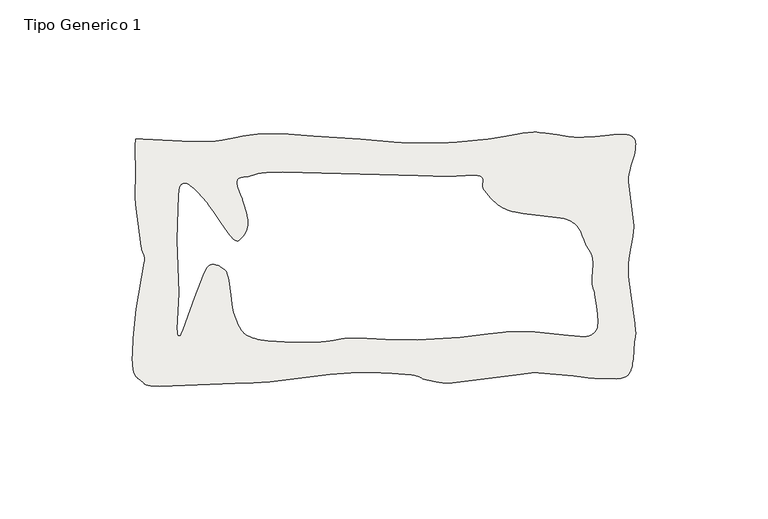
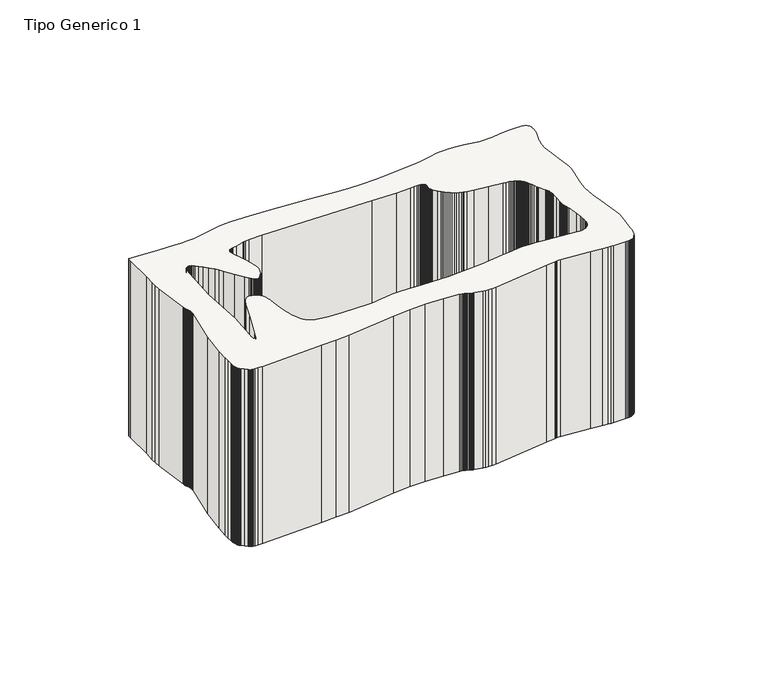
"""IFC4 building model written with IfcOpenShell, lengths in millimetres: slab geometry, Tipo Generico 1."""

import ifcopenshell
import ifcopenshell.guid

model = None  # the IFC model being written
_history = None  # IfcOwnerHistory: only IFC2X3 demands one
_inside = {}  # id of a spatial element -> (the spatial element, [elements in it])
_under = {}  # id of a project, library or spatial element -> (it, [spatial elements below it])
_declared = {}  # id of a project -> (the project, [libraries it declares])
_typed = {}  # id of a type object -> (the type object, [elements of that type])
_made_of = {}  # id of a material, layer set ... -> (it, [elements and type objects made of it])


def new_model(schema):
    """Start an empty IFC model of exactly this schema.

    Asked for "IFC4X3", IfcOpenShell would pick the latest addendum, in which some entities
    have other attributes; the version numbers below select the first issue.
    IFC2X3 requires an IfcOwnerHistory on every rooted entity: one is made here for all.
    """
    global model, _history
    if schema == "IFC4X3":
        model = ifcopenshell.file(schema_version=(4, 3, 0, 0))
    else:
        model = ifcopenshell.file(schema=schema)
    _inside.clear()
    _under.clear()
    _declared.clear()
    _typed.clear()
    _made_of.clear()
    _history = None
    if model.schema == "IFC2X3":
        org = make("IfcOrganization", Name="unknown")
        user = make(
            "IfcPersonAndOrganization",
            ThePerson=make("IfcPerson", FamilyName="unknown"),
            TheOrganization=org,
        )
        app = make(
            "IfcApplication",
            ApplicationDeveloper=org,
            Version="unknown",
            ApplicationFullName="unknown",
            ApplicationIdentifier="unknown",
        )
        _history = make(
            "IfcOwnerHistory",
            OwningUser=user,
            OwningApplication=app,
            ChangeAction="ADDED",
            CreationDate=0,
        )
    return model


def make(cls, **values):
    """One entity of the class cls with the attributes given. An attribute that is None is left unset."""
    return model.create_entity(
        cls, **{name: value for name, value in values.items() if value is not None}
    )


def rooted(cls, **values):
    """An entity with a GlobalId (a new one), such as an element, a storey or a relation."""
    return make(cls, GlobalId=ifcopenshell.guid.new(), OwnerHistory=_history, **values)


def si_unit(unit_type, name, prefix=None):
    """IfcSIUnit, for example si_unit("LENGTHUNIT", "METRE", prefix="MILLI")."""
    return make("IfcSIUnit", UnitType=unit_type, Prefix=prefix, Name=name)


def assignment(units):
    """IfcUnitAssignment: the units of a project."""
    return None if units is None else make("IfcUnitAssignment", Units=units)


def point(xyz):
    """IfcCartesianPoint."""
    return None if xyz is None else make("IfcCartesianPoint", Coordinates=xyz)


def direction(xyz):
    """IfcDirection."""
    return None if xyz is None else make("IfcDirection", DirectionRatios=xyz)


def frame(location, z_axis=None, x_axis=None):
    """IfcAxis2Placement3D, a coordinate frame: its origin and axes. An axis left out is left unset."""
    return make(
        "IfcAxis2Placement3D",
        Location=point(location),
        Axis=direction(z_axis),
        RefDirection=direction(x_axis),
    )


def origin():
    """The frame at (0, 0, 0) with its axes left unset."""
    return frame((0.0, 0.0, 0.0))


def place(relative_to, where):
    """IfcLocalPlacement: puts the frame where relative to a parent placement (None: the world)."""
    return make(
        "IfcLocalPlacement", PlacementRelTo=relative_to, RelativePlacement=where
    )


def context(
    kind, dimensions, precision=None, world=None, true_north=None, identifier=None
):
    """IfcGeometricRepresentationContext, for example the 3D "Model" context."""
    return make(
        "IfcGeometricRepresentationContext",
        ContextIdentifier=identifier,
        ContextType=kind,
        CoordinateSpaceDimension=dimensions,
        Precision=precision,
        WorldCoordinateSystem=world,
        TrueNorth=true_north,
    )


def project(units=None, contexts=None):
    """IfcProject with its units and contexts."""
    return rooted(
        "IfcProject",
        Name="project",
        RepresentationContexts=contexts,
        UnitsInContext=assignment(units),
    )


def spatial(cls, under=None, at=None, **own):
    """A site, building, storey or space (cls), placed at a placement, below another one or the project."""
    s = rooted(cls, ObjectPlacement=at, **own)
    if under is not None:
        _under.setdefault(under.id(), (under, []))[1].append(s)
    return s


def polyline(points):
    """IfcPolyline through the points."""
    return make("IfcPolyline", Points=[point(p) for p in points])


def outline(outer, holes=None, kind="AREA"):
    """IfcArbitraryClosedProfileDef: a profile drawn as a closed curve; with holes, ...WithVoids."""
    if holes is None:
        return make("IfcArbitraryClosedProfileDef", ProfileType=kind, OuterCurve=outer)
    return make(
        "IfcArbitraryProfileDefWithVoids",
        ProfileType=kind,
        OuterCurve=outer,
        InnerCurves=holes,
    )


def extrude(swept, where, along, depth):
    """IfcExtrudedAreaSolid: the profile swept, set in the frame where, extruded along a direction by depth."""
    return make(
        "IfcExtrudedAreaSolid",
        SweptArea=swept,
        Position=where,
        ExtrudedDirection=direction(along),
        Depth=depth,
    )


def shape(context_of_items, identifier, shape_type, items):
    """IfcShapeRepresentation: the items that make up one representation, for example the "Body"."""
    return make(
        "IfcShapeRepresentation",
        ContextOfItems=context_of_items,
        RepresentationIdentifier=identifier,
        RepresentationType=shape_type,
        Items=items,
    )


def source(mapping_origin, context_of_items, identifier, shape_type, items):
    """IfcRepresentationMap: a shape defined once, which mapped items show again and again."""
    return make(
        "IfcRepresentationMap",
        MappingOrigin=mapping_origin,
        MappedRepresentation=shape(context_of_items, identifier, shape_type, items),
    )


def transform(
    local_origin,
    x_axis=None,
    y_axis=None,
    z_axis=None,
    scale=None,
    scale2=None,
    scale3=None,
    uniform=True,
):
    """IfcCartesianTransformationOperator3D, or its non-uniform kind. x_axis, y_axis, z_axis: its Axis1, 2, 3."""
    if uniform:
        return make(
            "IfcCartesianTransformationOperator3D",
            Axis1=direction(x_axis),
            Axis2=direction(y_axis),
            LocalOrigin=point(local_origin),
            Scale=scale,
            Axis3=direction(z_axis),
        )
    return make(
        "IfcCartesianTransformationOperator3DnonUniform",
        Axis1=direction(x_axis),
        Axis2=direction(y_axis),
        LocalOrigin=point(local_origin),
        Scale=scale,
        Axis3=direction(z_axis),
        Scale2=scale2,
        Scale3=scale3,
    )


def mapped(mapping_source, mapping_target):
    """IfcMappedItem: shows the shape of a source again, moved by a transform."""
    return make(
        "IfcMappedItem", MappingSource=mapping_source, MappingTarget=mapping_target
    )


def made_of(thing, what):
    """Note that an element or type object is made of a material, layer set ...; save() writes the relation."""
    if what is not None:
        _made_of.setdefault(what.id(), (what, []))[1].append(thing)
    return thing


def element(
    cls,
    number,
    at=None,
    inside=None,
    cuts=None,
    type_object=None,
    material=None,
    context=None,
    identifier="Body",
    shape_type=None,
    held_by="IfcProductDefinitionShape",
    body=None,
    shapes=None,
    **own,
):
    """One element of the class cls, such as IfcWall. Its Tag is "e" and its number.

    at: its placement. inside: the storey or other place that contains it. cuts: it is an
    opening in that element (IfcRelVoidsElement). A single representation is given by context,
    identifier, shape_type and body (its items); several are given by shapes. held_by: the class
    of the entity that holds the representations. save() writes the other relations.
    """
    e = rooted(cls, Tag="e%d" % number, ObjectPlacement=at, **own)
    if body is not None:
        shapes = [shape(context, identifier, shape_type, body)]
    if shapes is not None:
        e.Representation = make(held_by, Representations=shapes)
    if inside is not None:
        _inside.setdefault(inside.id(), (inside, []))[1].append(e)
    if cuts is not None:
        rooted(
            "IfcRelVoidsElement", RelatingBuildingElement=cuts, RelatedOpeningElement=e
        )
    if type_object is not None:
        _typed.setdefault(type_object.id(), (type_object, []))[1].append(e)
    return made_of(e, material)


def aggregate(whole, parts):
    """IfcRelAggregates: a whole, such as a stair, and the parts it consists of."""
    return rooted("IfcRelAggregates", RelatingObject=whole, RelatedObjects=parts)


def save(model, path):
    """Write the relations noted so far, then the file.

    IfcRelAggregates (storeys below a building ...), IfcRelContainedInSpatialStructure (elements
    in a storey), IfcRelDefinesByType, IfcRelAssociatesMaterial and IfcRelDeclares: one each for
    every whole, place, type object, material and project.
    """
    for whole, parts in _under.values():
        aggregate(whole, parts)
    for where, things in _inside.values():
        rooted(
            "IfcRelContainedInSpatialStructure",
            RelatedElements=things,
            RelatingStructure=where,
        )
    for kind, things in _typed.values():
        rooted("IfcRelDefinesByType", RelatedObjects=things, RelatingType=kind)
    for what, things in _made_of.values():
        rooted("IfcRelAssociatesMaterial", RelatedObjects=things, RelatingMaterial=what)
    for by, libraries in _declared.values():
        rooted("IfcRelDeclares", RelatingContext=by, RelatedDefinitions=libraries)
    model.write(path)


def tipo_generico_1_56dbb633(model_context):
    return source(origin(), model_context, "Body", "SweptSolid", [
        extrude(outline(polyline([(-2359.4134925, -481.3178551), (-2359.4699487, -479.3888008), (-2359.4296657, -477.0555016), (-2359.1229636, -471.5977385), (-2358.0533235, -460.4682062), (-2354.9386975, -442.9730506), (-2354.8932281, -442.2983464), (-2354.8752215, -441.7359829), (-2354.8825469, -441.2702851), (-2354.8947532, -441.0688305), (-2354.9121487, -440.8856881), (-2354.9350362, -440.7189084), (-2354.9621962, -440.5665506), (-2354.9939342, -440.426665), (-2355.0299476, -440.2973078), (-2355.0696194, -440.1765351), (-2355.1126499, -440.0623608), (-2355.2081696, -439.8460289), (-2355.4266745, -439.4069959), (-2355.544779, -439.1530152), (-2355.6653224, -438.8552769), (-2355.7861714, -438.4981822), (-2355.9045786, -438.0660927), (-2356.0177994, -437.5434407), (-2356.1236976, -436.9145878), (-2358.1818007, -420.9839928), (-2358.3371352, -418.1014165), (-2358.3362213, -415.7112792), (-2358.2452796, -410.8342653), (-2358.34263, -398.0696029), (-2358.2867821, -396.8734661), (-2358.2703034, -396.7272482), (-2358.2614528, -396.6720115), (-2358.2516883, -396.6274928), (-2358.2043855, -396.2794014), (-2358.1576937, -396.2675771), (-2358.135109, -396.2658228), (-2357.7603528, -396.2625039), (-2355.5795672, -396.3111791), (-2344.3851101, -396.9476998), (-2337.265054, -397.2593987), (-2333.8495265, -397.3097149), (-2330.7309337, -397.2500897), (-2327.9465113, -397.0347509), (-2325.3702182, -396.6723538), (-2320.4535297, -395.7142934), (-2317.9193503, -395.2224655), (-2315.2057266, -394.7913663), (-2312.2153111, -394.4729532), (-2308.8519673, -394.3191438), (-2300.6753941, -394.4970602), (-2291.2591953, -395.0739953), (-2273.4111412, -396.3828945), (-2260.7551978, -397.3621278), (-2255.2286167, -397.739555), (-2249.4923782, -397.8838263), (-2243.2776274, -397.7248305), (-2236.9218845, -397.3387056), (-2225.1962673, -396.287338), (-2222.7098463, -395.9838786), (-2220.4047031, -395.6127073), (-2216.1705396, -394.7941505), (-2212.1596146, -394.0849212), (-2210.1332495, -393.8504694), (-2208.0371496, -393.7383945), (-2206.9600312, -393.7406072), (-2205.8743678, -393.7839799), (-2203.6856455, -393.9721984), (-2199.2929473, -394.6011645), (-2194.9829486, -395.2745728), (-2192.8976827, -395.51841), (-2190.8795569, -395.6417772), (-2188.8792823, -395.630332), (-2186.861001, -395.5195898), (-2182.9126354, -395.1249595), (-2179.319497, -394.7071758), (-2177.7450955, -394.5675561), (-2177.0289991, -394.528685), (-2176.3663115, -394.515678), (-2174.1882705, -394.5608447), (-2173.3365269, -394.6254271), (-2172.9603956, -394.6716208), (-2172.6137162, -394.7283854), (-2172.2937412, -394.7966687), (-2171.9978731, -394.8774639), (-2171.7232147, -394.9717613), (-2171.5930568, -395.0242534), (-2171.4671713, -395.0805201), (-2171.3452528, -395.1406008), (-2171.2268456, -395.204688), (-2171.1116413, -395.2728186), (-2170.9994901, -395.3452216), (-2170.8899306, -395.4219339), (-2170.7825102, -395.5031507), (-2170.5730057, -395.6793892), (-2170.3789133, -395.8657741), (-2170.2911775, -395.9599612), (-2170.2092363, -396.0552121), (-2170.1330956, -396.1518777), (-2170.0625996, -396.2502212), (-2169.9975985, -396.3506217), (-2169.9380893, -396.4533537), (-2169.8837665, -396.5587907), (-2169.8344802, -396.6672042), (-2169.7902303, -396.7789367), (-2169.7507112, -396.8943305), (-2169.7159202, -397.0136545), (-2169.6855544, -397.1372905), (-2169.6597667, -397.2655018), (-2169.6381016, -397.3986335), (-2169.6069719, -397.6809597), (-2169.5911043, -397.9868242), (-2169.5895764, -398.3187792), (-2169.6010215, -398.6793428), (-2169.7552893, -400.4595846), (-2169.8334135, -400.9992133), (-2169.9509068, -401.574431), (-2170.2803435, -402.8245454), (-2171.1484158, -405.6729051), (-2171.5913789, -407.2421937), (-2171.9760524, -408.8889614), (-2172.1316924, -409.7368908), (-2172.2548304, -410.5987072), (-2172.3395162, -411.4726931), (-2172.3796464, -412.3570151), (-2170.265237, -428.9033427), (-2170.2908719, -429.9446402), (-2170.3618262, -430.978233), (-2170.6126804, -433.0306914), (-2171.3666152, -437.1362221), (-2172.1060575, -441.3557715), (-2172.3384494, -443.5507498), (-2172.3975003, -444.6769621), (-2172.409401, -445.8251877), (-2172.293894, -448.284293), (-2172.0315946, -450.9570593), (-2171.2416465, -456.5535649), (-2169.8253269, -466.0200799), (-2169.6211644, -468.537093), (-2169.5883569, -469.3162072), (-2169.5973602, -469.9233553), (-2169.6445103, -470.4692371), (-2169.7264486, -471.0646741), (-2169.9806613, -472.8469758), (-2170.5025098, -479.3574815), (-2170.7452773, -481.1212445), (-2170.9068677, -481.9575788), (-2171.1009601, -482.7476033), (-2171.2114335, -483.1215191), (-2171.3316742, -483.4793382), (-2171.4621349, -483.8195721), (-2171.6034324, -484.1407299), (-2171.7560195, -484.4413287), (-2171.9205101, -484.7198409), (-2172.007332, -484.850378), (-2172.097207, -484.9748147), (-2172.1904376, -485.092956), (-2172.2868741, -485.2046885), (-2172.3869718, -485.3107734), (-2172.4908837, -485.4122462), (-2172.598307, -485.5092542), (-2172.7095415, -485.6017974), (-2172.8241346, -485.6900708), (-2172.942239, -485.7741086), (-2173.0636992, -485.8540266), (-2173.1882095, -485.9299382), (-2173.4468475, -486.070053), (-2173.7173862, -486.1952113), (-2173.9990617, -486.3062194), (-2174.2911156, -486.403799), (-2174.592934, -486.4887535), (-2174.9036029, -486.5618441), (-2175.2225113, -486.6238319), (-2175.5490506, -486.6754836), (-2176.2218111, -486.7509), (-2176.9157811, -486.7942728), (-2182.5436796, -486.7250727), (-2183.8080233, -486.7297668), (-2185.0433735, -486.6760552), (-2187.4983592, -486.4423277), (-2192.8413793, -485.8126741), (-2206.2044157, -484.5578685), (-2207.9433078, -484.509878), (-2208.4393713, -484.5214364), (-2208.8837067, -484.5630549), (-2213.0951328, -485.1255711), (-2238.7160105, -488.3292684), (-2240.7168963, -488.4050272), (-2242.3527904, -488.3799667), (-2243.6931249, -488.2744901), (-2244.8077789, -488.10893), (-2248.4025951, -487.2526848), (-2248.8476945, -487.155258), (-2249.2316068, -487.0489043), (-2249.5648576, -486.9349196), (-2249.8578283, -486.8146817), (-2250.1210415, -486.6895206), (-2250.3648758, -486.5607745), (-2250.8368324, -486.2977905), (-2251.0858531, -486.1662206), (-2251.3574613, -486.0364447), (-2251.6620271, -485.9097189), (-2252.0103844, -485.7874212), (-2252.4126062, -485.6708446), (-2252.8793735, -485.5614012), (-2253.4212121, -485.4603499), (-2254.0485003, -485.369063), (-2261.4149852, -484.7704995), (-2269.9539583, -484.5020206), (-2277.0413596, -484.6542257), (-2284.9786765, -485.2592772), (-2307.6837544, -488.0147458), (-2313.883096, -488.4448914), (-2320.7947172, -488.6595455), (-2349.1977311, -489.6910389), (-2351.1316295, -489.6020411), (-2352.5635168, -489.4718464), (-2353.122598, -489.3897157), (-2353.594399, -489.2953391), (-2353.8016144, -489.2433845), (-2353.9917371, -489.1881082), (-2354.165995, -489.1294394), (-2354.3265158, -489.0673356), (-2354.4748304, -489.0016837), (-2354.612161, -488.93241), (-2354.7406383, -488.8594722), (-2354.8611845, -488.7826835), (-2354.9759304, -488.7020779), (-2355.0860982, -488.6175054), (-2355.2997224, -488.4362333), (-2356.2948996, -487.5373), (-2357.4591456, -486.611204), (-2357.7136611, -486.3851076), (-2357.9526145, -486.1456986), (-2358.0661409, -486.0185908), (-2358.1756976, -485.8852667), (-2358.2812901, -485.744736), (-2358.382913, -485.5960762), (-2358.4802634, -485.4382631), (-2358.5733412, -485.2703376), (-2358.6624522, -485.0913545), (-2358.746988, -484.9003519), (-2358.8272484, -484.6963422), (-2358.9032363, -484.4783692), (-2359.042092, -483.9966878), (-2359.1629411, -483.4475237), (-2359.2651751, -482.8231329), (-2359.3490996, -482.1158502), (-2359.4134925, -481.3178551)]), holes=[polyline([(-2342.2513218, -422.635183), (-2342.6596466, -434.5081245), (-2341.7447298, -454.365301), (-2342.4817274, -467.9894937), (-2342.4692156, -468.8676361), (-2342.4271019, -469.5104523), (-2342.3962806, -469.7551638), (-2342.3599645, -469.9549405), (-2342.3398216, -470.0393603), (-2342.3184592, -470.1143183), (-2342.2958773, -470.1803126), (-2342.2723786, -470.2379911), (-2342.2601695, -470.2638552), (-2342.2476576, -470.287849), (-2342.2348402, -470.3100886), (-2342.2220227, -470.3305342), (-2342.2089025, -470.3493784), (-2342.1954739, -470.3666211), (-2342.1820453, -470.3823388), (-2342.1683139, -470.3966445), (-2342.1542742, -470.4095384), (-2342.1402372, -470.4211731), (-2342.1258947, -470.4315855), (-2342.1112437, -470.4408548), (-2342.0969012, -470.4490178), (-2342.0819475, -470.4562301), (-2342.0672994, -470.4624464), (-2342.0523457, -470.4678252), (-2342.0370865, -470.4724401), (-2342.0218272, -470.4762938), (-2342.0065707, -470.4795364), (-2341.9910059, -470.4822074), (-2341.9601818, -470.4860979), (-2341.9287493, -470.4885765), (-2341.8021027, -470.4958256), (-2341.7416768, -470.5018155), (-2341.7136001, -470.5038358), (-2341.6861345, -470.5045601), (-2341.6730115, -470.5043337), (-2341.6598913, -470.5036462), (-2341.6467683, -470.5023871), (-2341.6339508, -470.5005168), (-2341.6211334, -470.4980382), (-2341.6086215, -470.4948324), (-2341.595804, -470.4908655), (-2341.5832922, -470.4860979), (-2341.5704747, -470.4804135), (-2341.55796, -470.473852), (-2341.5451426, -470.4662605), (-2341.5320224, -470.4576392), (-2341.5192049, -470.4479143), (-2341.5060819, -470.4370407), (-2341.4926533, -470.4249872), (-2341.4789219, -470.411635), (-2341.4651877, -470.3969473), (-2341.4511508, -470.3808901), (-2341.4221573, -470.3444212), (-2341.3916416, -470.3017728), (-2341.359598, -470.2524864), (-2341.2900159, -470.1321694), (-2341.2112806, -469.9798879), (-2341.0202412, -469.5652307), (-2340.4532261, -468.19457), (-2336.0593028, -456.1844932), (-2333.5800573, -449.386206), (-2332.9306427, -447.7521426), (-2332.2696302, -446.2967226), (-2331.9348543, -445.6598199), (-2331.5970225, -445.096121), (-2331.42704, -444.8447321), (-2331.2561435, -444.6152035), (-2331.084633, -444.408752), (-2330.998575, -444.314565), (-2330.9125142, -444.2265604), (-2330.8255395, -444.1445457), (-2330.7373424, -444.0680229), (-2330.6479258, -443.9969158), (-2330.5572898, -443.9311139), (-2330.465737, -443.8704984), (-2330.3729647, -443.8149165), (-2330.27897, -443.7642975), (-2330.1843643, -443.7185197), (-2330.0888446, -443.677436), (-2329.9924109, -443.6410067), (-2329.8950577, -443.6090394), (-2329.7970962, -443.5814211), (-2329.6985264, -443.5580724), (-2329.5993425, -443.5388858), (-2329.4992447, -443.5237426), (-2329.399147, -443.512487), (-2329.2981353, -443.5050483), (-2329.1968152, -443.5012738), (-2328.9932639, -443.504324), (-2328.7887959, -443.520766), (-2328.5837196, -443.5496434), (-2328.3783348, -443.5900792), (-2328.1732556, -443.6410802), (-2327.9690932, -443.7017721), (-2327.7658475, -443.7712382), (-2327.3642369, -443.9328286), (-2326.9723908, -444.118492), (-2326.5933621, -444.3208238), (-2326.2308123, -444.532538), (-2325.0128575, -445.3259579), (-2324.581034, -445.6235406), (-2324.4061678, -445.7591538), (-2324.327738, -445.8261016), (-2324.2544946, -445.893471), (-2324.1861349, -445.9619043), (-2324.1223532, -446.0320947), (-2324.0625385, -446.1048033), (-2324.0066906, -446.1806781), (-2323.9538958, -446.2604433), (-2323.9038483, -446.3447867), (-2323.8565454, -446.4344324), (-2323.8110732, -446.5301049), (-2323.724404, -446.7421644), (-2323.640785, -446.9866466), (-2323.4695829, -447.5952434), (-2323.0173109, -449.4483862), (-2322.878458, -450.0941762), (-2322.749978, -450.8392237), (-2322.5110245, -452.5741489), (-2322.0270173, -456.6512605), (-2321.7349633, -458.7810819), (-2321.3788222, -460.8301449), (-2321.1694733, -461.791182), (-2320.9354035, -462.6921751), (-2320.6738681, -463.5199276), (-2320.5316539, -463.9021592), (-2320.3815086, -464.2610846), (-2319.2609043, -466.771041), (-2318.9825817, -467.320205), (-2318.6890027, -467.8399568), (-2318.3722307, -468.3313291), (-2318.2025537, -468.5666948), (-2318.0237205, -468.7953094), (-2317.8354285, -469.0173625), (-2317.6361469, -469.2328937), (-2317.4252702, -469.442053), (-2317.2012732, -469.6449959), (-2316.9635393, -469.8418329), (-2316.7108544, -470.0326827), (-2316.4422992, -470.2176586), (-2316.156654, -470.3969105), (-2315.8533105, -470.5705176), (-2315.5313492, -470.7386299), (-2315.1892478, -470.9013662), (-2314.8263952, -471.058837), (-2314.0338524, -471.3585587), (-2313.1454844, -471.6387091), (-2312.1289447, -471.8913571), (-2310.9689712, -472.1094801), (-2308.2953278, -472.4520795), (-2302.0660788, -472.8318693), (-2290.3448868, -472.924568), (-2288.3111963, -472.8631122), (-2286.5591812, -472.7142232), (-2285.01774, -472.5049508), (-2283.6154574, -472.2622964), (-2280.9433362, -471.7850402), (-2279.5312891, -471.6045292), (-2277.9736719, -471.4987471), (-2274.5201504, -471.4925308), (-2270.8978658, -471.6406161), (-2263.8763824, -471.9744414), (-2251.9403468, -472.0838848), (-2235.8592614, -471.3153755), (-2225.4262174, -469.9656217), (-2219.8804101, -469.2682931), (-2217.1661781, -469.0289973), (-2214.5448683, -468.9063544), (-2211.9185278, -468.9195538), (-2209.2070403, -469.0455157), (-2203.794441, -469.5138081), (-2194.8761365, -470.4618749), (-2190.5365388, -470.842239), (-2189.9116896, -470.8836284), (-2189.3553557, -470.8909142), (-2189.084817, -470.8798143), (-2188.8097002, -470.8578011), (-2188.2170503, -470.7779226), (-2187.9062285, -470.7207392), (-2187.6091382, -470.6545554), (-2187.3254793, -470.5793285), (-2187.0547878, -470.4951012), (-2186.7969137, -470.4018309), (-2186.5513987, -470.2995205), (-2186.3179401, -470.1881332), (-2186.0963821, -470.0676633), (-2185.8861166, -469.9381166), (-2185.6871433, -469.7994901), (-2185.4988485, -469.651747), (-2185.3210849, -469.4949243), (-2185.1535414, -469.3289482), (-2184.9959179, -469.153816), (-2184.8477561, -468.9695645), (-2184.7087476, -468.7761597), (-2184.5810315, -468.5790935), (-2184.4661328, -468.3823301), (-2184.3637488, -468.1837757), (-2184.2734155, -467.9811779), (-2184.1942218, -467.7723978), (-2184.1258621, -467.5552283), (-2184.0678808, -467.3274908), (-2184.0193556, -467.0870123), (-2183.9801421, -466.8315801), (-2183.949318, -466.5590579), (-2183.9114768, -465.9538932), (-2183.9140714, -464.4421671), (-2183.9667135, -463.4530166), (-2184.0704726, -462.2754212), (-2184.3820583, -459.6078781), (-2185.0772478, -454.7951807), (-2185.2199176, -454.0463927), (-2185.2946861, -453.7462522), (-2185.370674, -453.4854044), (-2185.5234167, -453.0509099), (-2185.6718841, -452.6817617), (-2185.809823, -452.3166568), (-2185.8728407, -452.1165376), (-2185.9309776, -451.8944449), (-2185.9834669, -451.6427532), (-2186.0293975, -451.3538655), (-2186.0680027, -451.0200403), (-2186.0986712, -450.6337257), (-2186.1153027, -450.1930913), (-2186.1148472, -449.7057623), (-2186.0738002, -448.6162084), (-2185.9123626, -446.1540132), (-2185.7991418, -443.6506947), (-2185.8185208, -442.5096419), (-2185.8572787, -441.9888601), (-2185.9193797, -441.5096205), (-2185.9979651, -441.0734085), (-2186.0846342, -440.6740106), (-2186.1801539, -440.3061583), (-2186.2849825, -439.9647049), (-2186.3997284, -439.644461), (-2186.5250027, -439.3401244), (-2186.6612638, -439.0466218), (-2186.8094256, -438.7586508), (-2188.4885029, -436.0304922), (-2188.6200331, -435.7994386), (-2188.7436295, -435.5573954), (-2188.9711378, -435.0435175), (-2189.3819045, -433.9185614), (-2189.7975549, -432.7059855), (-2190.0310135, -432.0825878), (-2190.2942296, -431.4561003), (-2190.5969619, -430.8328922), (-2190.7660306, -430.5244727), (-2190.9486778, -430.2191826), (-2191.1458204, -429.917899), (-2191.3588333, -429.6213434), (-2191.5887835, -429.3302826), (-2191.8370458, -429.0455541), (-2192.1046844, -428.7679191), (-2192.3929213, -428.498184), (-2192.7028291, -428.2371042), (-2193.0359272, -427.9855257), (-2193.3931351, -427.7441332), (-2193.7756751, -427.5138011), (-2194.1847611, -427.2952565), (-2194.621621, -427.0893398), (-2195.0950999, -426.8966197), (-2195.6114591, -426.7167199), (-2196.1676402, -426.5487576), (-2196.761057, -426.3920112), (-2198.0488965, -426.108771), (-2199.4528599, -425.8606247), (-2205.7904432, -425.0894839), (-2212.2294994, -424.363739), (-2215.047799, -423.8890379), (-2216.2797935, -423.6012168), (-2216.8419277, -423.4418787), (-2217.3643873, -423.2711322), (-2218.3317963, -422.9000769), (-2219.2293176, -422.4963301), (-2220.0610739, -422.0641614), (-2220.8311847, -421.6078093), (-2221.5436169, -421.1315067), (-2222.2024932, -420.63941), (-2222.8117748, -420.1357946), (-2223.3757397, -419.6249301), (-2223.8982021, -419.1109391), (-2224.3834317, -418.598128), (-2225.2580655, -417.5928778), (-2226.7383196, -415.7820411), (-2226.8205663, -415.6812954), (-2226.8965542, -415.5802837), (-2226.9665918, -415.47904), (-2227.0308319, -415.3776464), (-2227.0894243, -415.2760999), (-2227.1428303, -415.1744742), (-2227.1908972, -415.072775), (-2227.2342304, -414.9710757), (-2227.2728355, -414.8693765), (-2227.3068626, -414.767714), (-2227.3364644, -414.666128), (-2227.3620993, -414.5646947), (-2227.4020767, -414.3623658), (-2227.42817, -414.1609479), (-2227.4420569, -413.960792), (-2227.4454127, -413.7621979), (-2227.4402235, -413.5654373), (-2227.4278644, -413.3708498), (-2227.341348, -412.6199255), (-2227.2993871, -412.2650831), (-2227.2847362, -412.0939178), (-2227.2764968, -411.9272514), (-2227.276344, -411.7654714), (-2227.2798554, -411.6864701), (-2227.2859585, -411.6088014), (-2227.2949619, -411.5325079), (-2227.3070154, -411.4575867), (-2227.3224274, -411.3841169), (-2227.341348, -411.3120959), (-2227.3639299, -411.2415999), (-2227.3903288, -411.172629), (-2227.4209973, -411.1052624), (-2227.4559411, -411.0395341), (-2227.4954601, -410.9754469), (-2227.5398657, -410.9130403), (-2227.5891492, -410.8523852), (-2227.6436248, -410.793524), (-2227.7034395, -410.7364566), (-2227.7688991, -410.6812199), (-2227.8401562, -410.6278535), (-2227.9175192, -410.5764309), (-2228.0011382, -410.5269522), (-2228.0911631, -410.4794993), (-2228.1877523, -410.4340667), (-2228.2913586, -410.3906939), (-2228.4010709, -410.3496837), (-2228.5159696, -410.3113474), (-2228.761179, -410.2421473), (-2229.0257645, -410.1826777), (-2229.3088151, -410.1323983), (-2229.9258805, -410.0572874), (-2230.6038301, -410.012732), (-2232.1091079, -409.9988478), (-2233.7575167, -410.0578222), (-2240.441324, -410.3649826), (-2251.7352677, -410.0942515), (-2302.7856838, -408.8057612), (-2308.8635652, -408.9856242), (-2310.7419213, -409.1636198), (-2311.4676294, -409.2684088), (-2312.0804223, -409.3814004), (-2315.5426416, -410.3673452), (-2317.3862095, -410.7060541), (-2318.0975723, -410.8408269), (-2318.4045799, -410.9126187), (-2318.6813745, -410.9922708), (-2318.8083267, -411.0362548), (-2318.9282618, -411.0835944), (-2319.041177, -411.1347878), (-2319.1473779, -411.1902537), (-2319.2465589, -411.250524), (-2319.2935562, -411.2825676), (-2319.3390285, -411.3160232), (-2319.3829728, -411.3508906), (-2319.425392, -411.3872435), (-2319.4659806, -411.4250847), (-2319.5050441, -411.4646065), (-2319.5428853, -411.5057299), (-2319.5788958, -411.5486047), (-2319.6133813, -411.5932366), (-2319.6466444, -411.639702), (-2319.6780797, -411.6880716), (-2319.7082898, -411.7383878), (-2319.7372833, -411.7906875), (-2319.7644433, -411.8450839), (-2319.8151019, -411.9602881), (-2319.8602686, -412.0844561), (-2319.900246, -412.2180858), (-2319.9353426, -412.3615931), (-2319.9496851, -412.4371255), (-2319.9609775, -412.5151733), (-2319.9689113, -412.5956629), (-2319.9737949, -412.678518), (-2319.9756256, -412.7636621), (-2319.9744033, -412.8510952), (-2319.9634193, -413.0324861), (-2319.9417513, -413.2222664), (-2319.9097077, -413.4199805), (-2319.8172381, -413.8373851), (-2319.6918111, -414.2811122), (-2319.5383073, -414.7476107), (-2319.1684347, -415.7345883), (-2318.3227915, -417.8243926), (-2317.9303371, -418.8700786), (-2317.7600489, -419.3805611), (-2317.6141733, -419.8781129), (-2316.3678363, -424.0844262), (-2316.0910417, -425.1449102), (-2315.8734534, -426.1700345), (-2315.7938013, -426.6632742), (-2315.7373423, -427.1404172), (-2315.7071322, -427.5989452), (-2315.7056043, -428.0365663), (-2315.7333754, -428.4622867), (-2315.7867815, -428.8856048), (-2315.8642973, -429.3046477), (-2315.9634783, -429.717627), (-2316.0821911, -430.1225962), (-2316.2182994, -430.5177612), (-2316.3693614, -430.9012519), (-2316.533852, -431.2711245), (-2316.7090238, -431.6256613), (-2316.8927405, -431.9628819), (-2317.0834744, -432.2809527), (-2317.2784807, -432.578077), (-2317.4756261, -432.8523166), (-2317.6730742, -433.1018749), (-2317.8683861, -433.3248052), (-2318.0594255, -433.5193559), (-2318.2416172, -433.7045582), (-2318.4140416, -433.8966275), (-2318.7427143, -434.2761909), (-2318.9062882, -434.4511335), (-2318.989296, -434.5321579), (-2319.0735262, -434.6078035), (-2319.1598898, -434.6773063), (-2319.2483924, -434.7399053), (-2319.2938618, -434.7683244), (-2319.3399424, -434.79476), (-2319.3866369, -434.8190594), (-2319.4342426, -434.8411461), (-2319.482765, -434.8609071), (-2319.5325097, -434.8782262), (-2319.5828627, -434.8930639), (-2319.6344381, -434.905273), (-2319.687233, -434.9147319), (-2319.7412502, -434.9214462), (-2319.7961813, -434.9252235), (-2319.8526403, -434.9259875), (-2319.9106216, -434.923622), (-2319.9695225, -434.9180904), (-2320.0302511, -434.9092399), (-2320.0922021, -434.896994), (-2320.1559838, -434.8812396), (-2320.2212905, -434.8619002), (-2320.2881252, -434.8388571), (-2320.3567905, -434.8120027), (-2320.4272865, -434.7812946), (-2320.4993075, -434.74658), (-2320.6494527, -434.6647945), (-2320.8075346, -434.5658794), (-2320.9741615, -434.4490341), (-2321.1493304, -434.3134973), (-2321.3339611, -434.1584317), (-2321.7325215, -433.7867256), (-2321.949807, -433.5627655), (-2322.1820461, -433.3064561), (-2322.6865019, -432.7046868), (-2323.8318272, -431.1991402), (-2326.4657988, -427.4167167), (-2329.1684357, -423.4376062), (-2330.4001246, -421.6862391), (-2331.4746485, -420.260039), (-2333.2916647, -418.1114865), (-2334.8572156, -416.4725394), (-2336.201517, -415.2208632), (-2337.3547762, -414.2341149), (-2337.8479396, -413.838415), (-2338.2693875, -413.5386197), (-2338.4570711, -413.4210104), (-2338.6316318, -413.3229753), (-2338.7949, -413.2431337), (-2338.9480983, -413.1799236), (-2339.0216444, -413.1541359), (-2339.0930571, -413.1319331), (-2339.1632475, -413.1132049), (-2339.2316072, -413.0977165), (-2339.2987446, -413.0853178), (-2339.3649681, -413.0758193), (-2339.4302748, -413.0690286), (-2339.4952788, -413.0647561), (-2339.6234533, -413.0630782), (-2339.751625, -413.0692974), (-2339.8816301, -413.0820384), (-2340.0146883, -413.0997763), (-2340.0821312, -413.1109527), (-2340.1495742, -413.1247633), (-2340.2167145, -413.141242), (-2340.2835463, -413.1603522), (-2340.3497698, -413.182173), (-2340.4156877, -413.2067016), (-2340.4813, -413.2339775), (-2340.5459984, -413.2639981), (-2340.6097801, -413.2968057), (-2340.6729506, -413.3323578), (-2340.7352071, -413.3707734), (-2340.796547, -413.4120467), (-2340.8566673, -413.4561438), (-2340.9155653, -413.5031411), (-2340.9732439, -413.5530387), (-2341.0297029, -413.6058731), (-2341.084634, -413.6616418), (-2341.13804, -413.7203898), (-2341.1899182, -413.7821116), (-2341.2399685, -413.8468468), (-2341.2881853, -413.9146322), (-2341.3345714, -413.9854337), (-2341.3791297, -414.0593251), (-2341.421549, -414.1363429), (-2341.4621376, -414.2164534), (-2341.5002843, -414.2996904), (-2341.5359893, -414.3860908), (-2341.569558, -414.4756997), (-2341.6287616, -414.6644897), (-2341.6778951, -414.8662867), (-2341.7007826, -415.0017075), (-2341.7267231, -415.1976701), (-2341.7859267, -415.7592696), (-2341.9272242, -417.4783244), (-2342.2513218, -422.635183)])]), frame((0.0, 0.0, -88.0), z_axis=(0.0, 0.0, 1.0), x_axis=(1.0, 0.0, 0.0)), (0.0, 0.0, 1.0), 88.0),
    ])


if __name__ == "__main__":
    model = new_model("IFC4")
    model_context = context("Model", 3, world=origin())
    ifc_project = project(units=[si_unit("LENGTHUNIT", "METRE", prefix="MILLI")], contexts=[model_context])
    site = spatial("IfcSite", under=ifc_project)
    building = spatial("IfcBuilding", under=site)
    placement = place(None, origin())
    tipo_generico_1_shape = tipo_generico_1_56dbb633(model_context)
    element("IfcSlab", 1, ObjectType="Tipo Generico 1", at=placement, inside=building, context=model_context, shape_type="MappedRepresentation", body=[
        mapped(tipo_generico_1_shape, transform((0.0, 0.0, 0.0), x_axis=(1.0, 0.0, 0.0), y_axis=(0.0, 1.0, 0.0), z_axis=(0.0, 0.0, 1.0))),
    ])
    save(model, "model.ifc")
